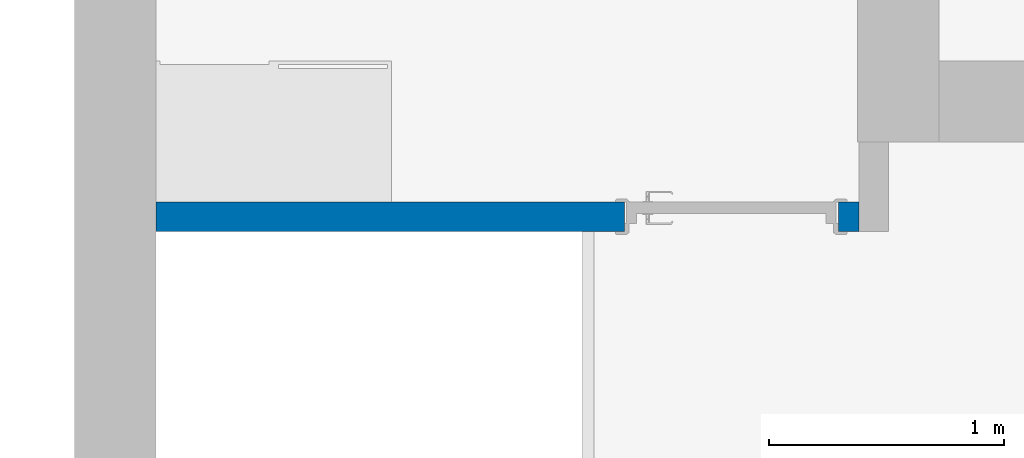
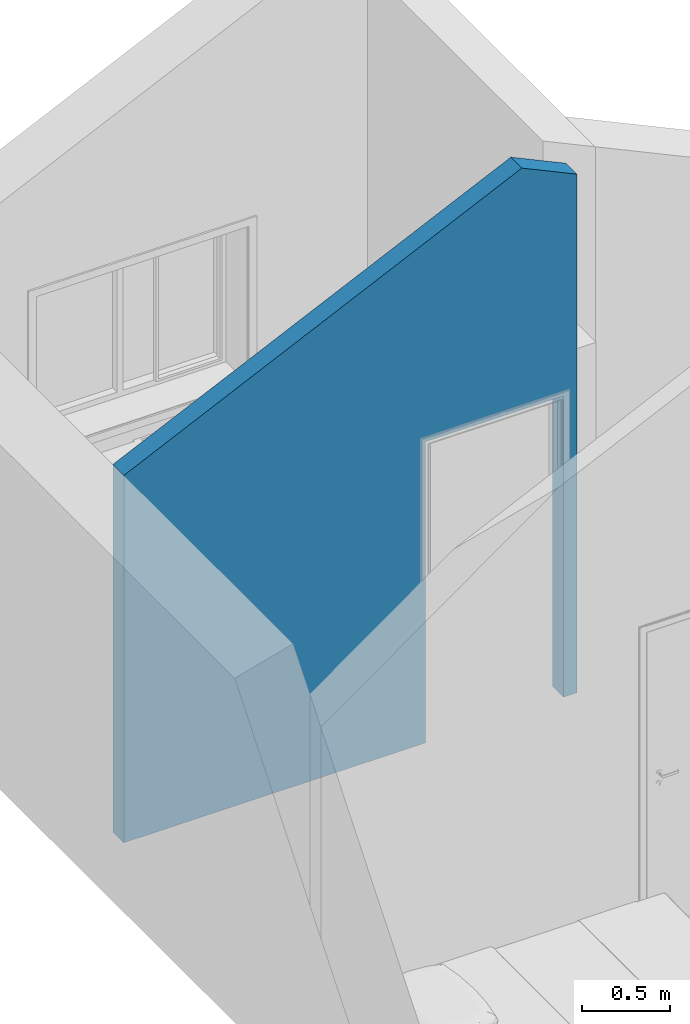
# One storey, part 15 of 44: 1 wall, 1 opening.
"""IFC2X3 building model written with IfcOpenShell, lengths in millimetres."""

from ifc_helpers import new_model, entity, si_unit, converted_unit, direction, frame, frame_2d, origin, place, context, subcontext, project, spatial, polyline, rectangle, extrude, clip, bounded_halfspace, material, layer, layer_set, layer_usage, type_object, element, save


model = new_model("IFC2X3")

# Units and contexts
model_context = context("Model", 3, precision=0.01, world=origin(), true_north=direction((0.0, 1.0)))
body_context = subcontext(model_context, "Body", "Model", "MODEL_VIEW")
ifc_project = project(units=[si_unit("LENGTHUNIT", "METRE", prefix="MILLI"), si_unit("AREAUNIT", "SQUARE_METRE"), si_unit("VOLUMEUNIT", "CUBIC_METRE"), converted_unit("PLANEANGLEUNIT", "DEGREE", entity("IfcPlaneAngleMeasure", 0.017453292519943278), si_unit("PLANEANGLEUNIT", "RADIAN"), dimensions=[0, 0, 0, 0, 0, 0, 0])], contexts=[model_context])

# Site, building, storey
site_placement = place(None, origin())
site = spatial("IfcSite", under=ifc_project, at=site_placement, Name="Default", CompositionType="ELEMENT")
building_placement = place(site_placement, origin())
building = spatial("IfcBuilding", under=site, at=building_placement, CompositionType="ELEMENT")
storey_placement = place(building_placement, frame((0.0, 0.0, 2681.0)))
storey = spatial("IfcBuildingStorey", under=building, at=storey_placement, Name="Et. 2", CompositionType="ELEMENT", Elevation=2681.0)

# Wall, opening
ifc_material_1 = material(Name="Vegg - Gips - Innvendig - Hvit")
ifc_layer_1 = layer(ifc_material_1, 13.000000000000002)
ifc_material_2 = material(Name="Vegg - Stender - Stål - Isolert")
ifc_layer_2 = layer(ifc_material_2, 100.0)
ifc_layer_3 = layer(ifc_material_1, 13.000000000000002)
ifc_layer_set = layer_set([ifc_layer_1, ifc_layer_2, ifc_layer_3], Name="Basic Wall:24-GSIG-13_100_13")
ifc_layer_usage = layer_usage(ifc_layer_set, "AXIS2", "NEGATIVE", 63.00000000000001)
wall_type = type_object("IfcWallType", Name="Basic Wall:24-GSIG-13_100_13", PredefinedType="STANDARD", material=ifc_layer_set)
wall_placement = place(storey_placement, frame((10437.009586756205, 16419.180957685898, 0.0)))
wall = element("IfcWallStandardCase", 1, at=wall_placement, inside=storey, type_object=wall_type, material=ifc_layer_usage, Name="Basic Wall:24-GSIG-13_100_13", context=body_context, shape_type="Clipping", body=[
    clip(clip(extrude(rectangle(XDim=2986.9999999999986, YDim=126.00000000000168, at=frame_2d((1493.4999999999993, -2.0250467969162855e-13), x_axis=(-1.0, 0.0))), origin(), (0.0, 0.0, 1.0), 3785.1668985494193), bounded_halfspace(frame((0.0, -63.0, 2561.3424497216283), z_axis=(-0.42261826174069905, 0.0, 0.9063077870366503), x_axis=(0.0, -1.0, 0.0)), False, frame((0.0, -63.0, 2561.3424497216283)), polyline([(0.0, 0.0), (2624.4999999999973, 0.0), (2624.499999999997, 126.0), (0.0, 126.0), (0.0, 0.0)]))), bounded_halfspace(frame((2624.4999999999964, -63.0, 3785.1668985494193), z_axis=(0.42261826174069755, 0.0, 0.9063077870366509), x_axis=(0.0, 1.0, 0.0)), False, frame((2624.4999999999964, -63.0, 3785.1668985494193)), polyline([(0.0, 0.0), (362.5000000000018, 0.0), (362.50000000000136, 126.0), (0.0, 126.0), (0.0, 0.0)]))),
])
opening_placement = place(wall_placement, frame((1990.0, -63.0, 0.0)))
element("IfcOpeningElement", 2, at=opening_placement, cuts=wall, Name="ID Hel:9x21M:1", ObjectType="Opening", context=body_context, shape_type="SweptSolid", body=[
    extrude(rectangle(XDim=910.0000000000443, YDim=2100.0000000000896, at=frame_2d((1050.0000000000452, 455.00000000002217), x_axis=(0.0, 1.0))), frame((0.0, 0.0, 0.0), z_axis=(0.0, 1.0, 0.0), x_axis=(0.0, 0.0, 1.0)), (0.0, 0.0, 1.0), 126.00000000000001),
])

save(model, "model.ifc")
